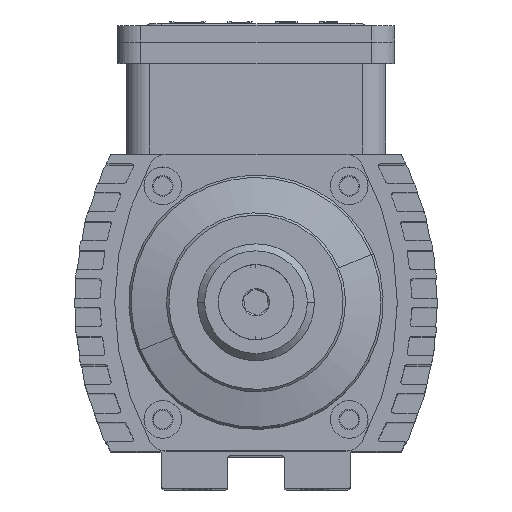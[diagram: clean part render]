
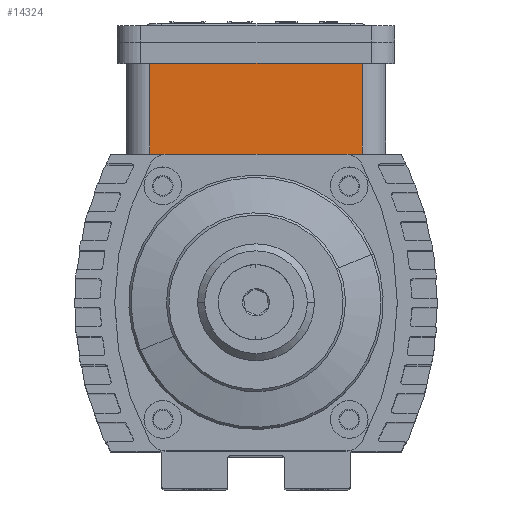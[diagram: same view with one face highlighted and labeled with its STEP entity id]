
A CAD part, top view. The second image highlights one B-rep face of the part: STEP entity #14324.
In plain terms, the highlighted planar face has unit normal (0, 0, 1).
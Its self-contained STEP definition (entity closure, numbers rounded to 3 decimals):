
#566 = CARTESIAN_POINT ( 'NONE',  ( -22.6, 19.5, 27.6 ) ) ;
#1178 = CARTESIAN_POINT ( 'NONE',  ( 22.6, 19.5, 27.6 ) ) ;
#1228 = EDGE_CURVE ( 'NONE', #14501, #17317, #8916, .T. ) ;
#1743 = DIRECTION ( 'NONE',  ( 0., 0., -1. ) ) ;
#2483 = DIRECTION ( 'NONE',  ( 0., -1., 0. ) ) ;
#3239 = DIRECTION ( 'NONE',  ( 1., 0., 0. ) ) ;
#3516 = VECTOR ( 'NONE', #19585, 1000. ) ;
#4247 = EDGE_CURVE ( 'NONE', #11548, #9620, #19156, .T. ) ;
#4577 = CARTESIAN_POINT ( 'NONE',  ( -60.861, 24., 27.6 ) ) ;
#5317 = CARTESIAN_POINT ( 'NONE',  ( -22.6, 24., 27.6 ) ) ;
#6080 = CARTESIAN_POINT ( 'NONE',  ( -27.6, 19.5, 27.6 ) ) ;
#6388 = EDGE_CURVE ( 'NONE', #14501, #11548, #8149, .T. ) ;
#7400 = PLANE ( 'NONE',  #15062 ) ;
#7599 = VECTOR ( 'NONE', #13449, 1000. ) ;
#8149 = LINE ( 'NONE', #5317, #20952 ) ;
#8369 = CARTESIAN_POINT ( 'NONE',  ( -22.6, 0., 27.6 ) ) ;
#8916 = LINE ( 'NONE', #6080, #21262 ) ;
#9620 = VERTEX_POINT ( 'NONE', #23300 ) ;
#11548 = VERTEX_POINT ( 'NONE', #8369 ) ;
#13449 = DIRECTION ( 'NONE',  ( 1., 0., 0. ) ) ;
#14324 = ADVANCED_FACE ( 'NONE', ( #23672 ), #7400, .F. ) ;
#14501 = VERTEX_POINT ( 'NONE', #566 ) ;
#15062 = AXIS2_PLACEMENT_3D ( 'NONE', #4577, #1743, #26613 ) ;
#16290 = CARTESIAN_POINT ( 'NONE',  ( -60.861, 0., 27.6 ) ) ;
#17317 = VERTEX_POINT ( 'NONE', #1178 ) ;
#17815 = ORIENTED_EDGE ( 'NONE', *, *, #4247, .T. ) ;
#19156 = LINE ( 'NONE', #16290, #7599 ) ;
#19585 = DIRECTION ( 'NONE',  ( 0., 1., 0. ) ) ;
#20952 = VECTOR ( 'NONE', #2483, 1000. ) ;
#21262 = VECTOR ( 'NONE', #3239, 1000. ) ;
#22196 = ORIENTED_EDGE ( 'NONE', *, *, #6388, .T. ) ;
#22430 = CARTESIAN_POINT ( 'NONE',  ( 22.6, 19.5, 27.6 ) ) ;
#22755 = ORIENTED_EDGE ( 'NONE', *, *, #1228, .F. ) ;
#23300 = CARTESIAN_POINT ( 'NONE',  ( 22.6, 0., 27.6 ) ) ;
#23672 = FACE_OUTER_BOUND ( 'NONE', #24324, .T. ) ;
#24324 = EDGE_LOOP ( 'NONE', ( #17815, #24649, #22755, #22196 ) ) ;
#24649 = ORIENTED_EDGE ( 'NONE', *, *, #25451, .T. ) ;
#25255 = LINE ( 'NONE', #22430, #3516 ) ;
#25451 = EDGE_CURVE ( 'NONE', #9620, #17317, #25255, .T. ) ;
#26613 = DIRECTION ( 'NONE',  ( -1., 0., 0. ) ) ;
